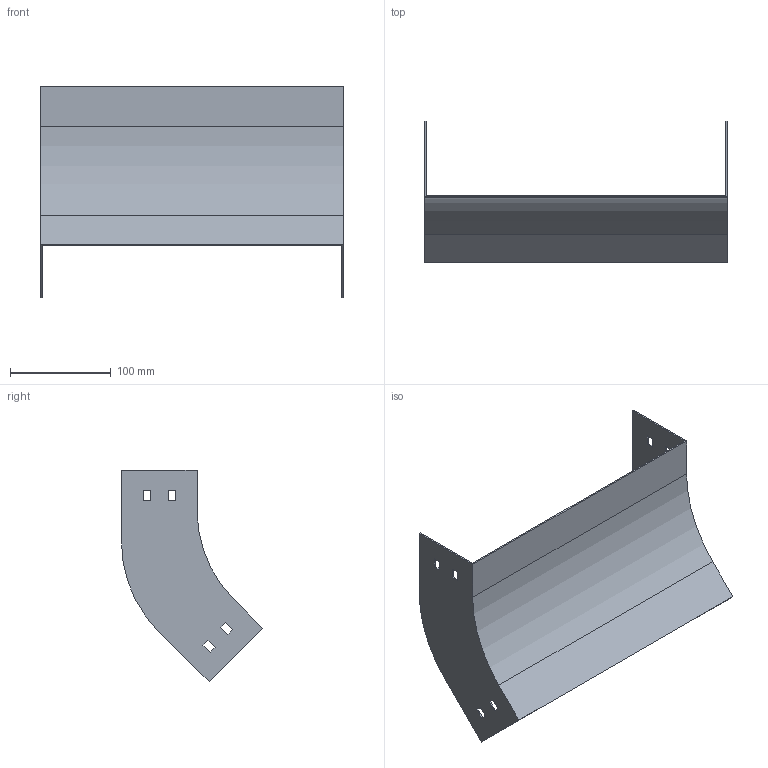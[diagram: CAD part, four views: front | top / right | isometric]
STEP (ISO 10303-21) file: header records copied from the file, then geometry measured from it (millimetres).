
FILE_DESCRIPTION (( 'STEP AP214' ), '1' );
FILE_NAME ('D4_307.step', '2025-07-16T09:07:27', ( '' ), ( '' ), 'SwSTEP 2.0', 'SolidWorks 2023', '' );
FILE_SCHEMA (( 'AUTOMOTIVE_DESIGN' ));
Length unit declared in the file: millimetre
Products named in the file (1): D4_307
Bounding box: 300 x 139.9 x 209.71 mm (x, y, z)
Volume: 127088.6 mm3; surface area: 171919.7 mm2
Topology: 1 solids, 1 shells, 50 faces, 144 edges, 96 vertices
Faces by surface type: plane 46, cylinder 4
Entity records: 1671 total; most frequent: CARTESIAN_POINT 291, ORIENTED_EDGE 288, DIRECTION 254, EDGE_CURVE 144, LINE 136, VECTOR 136, VERTEX_POINT 96, EDGE_LOOP 66
